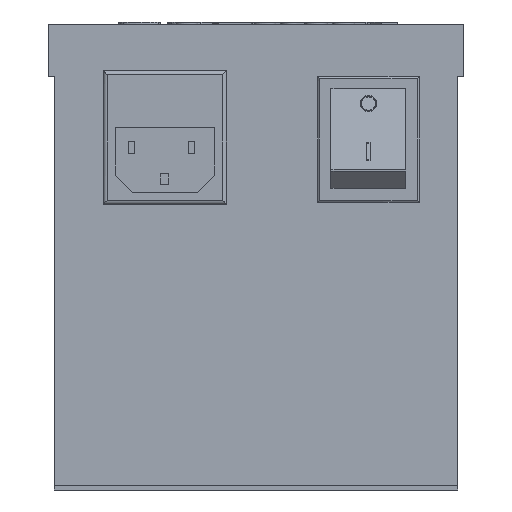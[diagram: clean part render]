
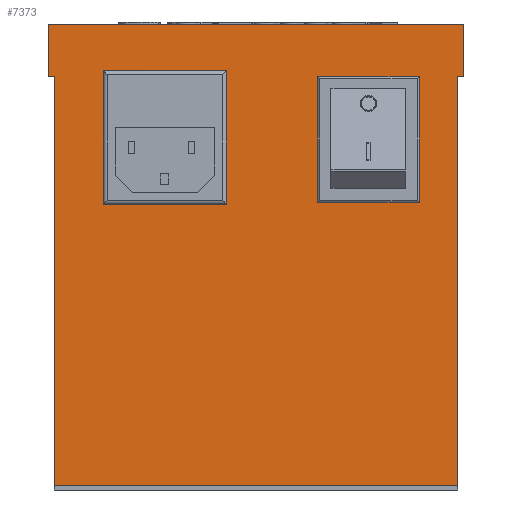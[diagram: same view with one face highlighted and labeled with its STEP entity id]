
A CAD part, front view. The second image highlights one B-rep face of the part: STEP entity #7373.
In plain terms, the highlighted planar face has unit normal (0, -1, 0).
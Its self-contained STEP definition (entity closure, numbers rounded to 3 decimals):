
#139 = DIRECTION ( 'NONE',  ( 0., 0., -1. ) ) ;
#192 = DIRECTION ( 'NONE',  ( 0., 0., -1. ) ) ;
#205 = EDGE_CURVE ( 'NONE', #8545, #2870, #1910, .T. ) ;
#268 = ORIENTED_EDGE ( 'NONE', *, *, #8837, .F. ) ;
#429 = ORIENTED_EDGE ( 'NONE', *, *, #9836, .T. ) ;
#453 = DIRECTION ( 'NONE',  ( 0., 0., -1. ) ) ;
#478 = DIRECTION ( 'NONE',  ( -1., 0., 0. ) ) ;
#507 = VERTEX_POINT ( 'NONE', #4184 ) ;
#665 = CARTESIAN_POINT ( 'NONE',  ( -76.9, -8.6, 103.5 ) ) ;
#739 = VERTEX_POINT ( 'NONE', #5477 ) ;
#763 = VERTEX_POINT ( 'NONE', #2629 ) ;
#824 = LINE ( 'NONE', #7375, #5283 ) ;
#923 = CARTESIAN_POINT ( 'NONE',  ( -90.4, -8.6, 103.5 ) ) ;
#953 = VERTEX_POINT ( 'NONE', #4834 ) ;
#961 = FACE_BOUND ( 'NONE', #4411, .T. ) ;
#1061 = EDGE_CURVE ( 'NONE', #2870, #1855, #3461, .T. ) ;
#1065 = LINE ( 'NONE', #6642, #11182 ) ;
#1068 = CARTESIAN_POINT ( 'NONE',  ( -88.9, -8.6, 1. ) ) ;
#1124 = LINE ( 'NONE', #8844, #11011 ) ;
#1128 = DIRECTION ( 'NONE',  ( 1., 0., 0. ) ) ;
#1245 = DIRECTION ( 'NONE',  ( 1., 0., 0. ) ) ;
#1257 = ORIENTED_EDGE ( 'NONE', *, *, #10707, .F. ) ;
#1317 = VECTOR ( 'NONE', #478, 1000. ) ;
#1591 = CARTESIAN_POINT ( 'NONE',  ( -88.9, -8.6, 102. ) ) ;
#1784 = LINE ( 'NONE', #4567, #7640 ) ;
#1855 = VERTEX_POINT ( 'NONE', #3028 ) ;
#1899 = ORIENTED_EDGE ( 'NONE', *, *, #8625, .F. ) ;
#1910 = LINE ( 'NONE', #923, #7935 ) ;
#2203 = EDGE_LOOP ( 'NONE', ( #10556, #9088, #1899, #8182 ) ) ;
#2449 = VECTOR ( 'NONE', #8655, 1000. ) ;
#2503 = CARTESIAN_POINT ( 'NONE',  ( -46.4, -8.6, 103.5 ) ) ;
#2558 = EDGE_CURVE ( 'NONE', #11311, #8545, #9948, .T. ) ;
#2629 = CARTESIAN_POINT ( 'NONE',  ( 12.1, -8.6, 102. ) ) ;
#2680 = LINE ( 'NONE', #4287, #11401 ) ;
#2709 = ORIENTED_EDGE ( 'NONE', *, *, #2558, .F. ) ;
#2870 = VERTEX_POINT ( 'NONE', #665 ) ;
#2972 = CARTESIAN_POINT ( 'NONE',  ( -23.9, -8.6, 71. ) ) ;
#3028 = CARTESIAN_POINT ( 'NONE',  ( -76.9, -8.6, 70.5 ) ) ;
#3041 = CARTESIAN_POINT ( 'NONE',  ( 12.1, -8.6, 1. ) ) ;
#3106 = LINE ( 'NONE', #3041, #1317 ) ;
#3236 = LINE ( 'NONE', #7013, #5664 ) ;
#3356 = EDGE_LOOP ( 'NONE', ( #4813, #5447, #6015, #1257, #268, #429, #3913, #10366 ) ) ;
#3457 = VECTOR ( 'NONE', #9832, 1000. ) ;
#3461 = LINE ( 'NONE', #6245, #5218 ) ;
#3517 = EDGE_CURVE ( 'NONE', #1855, #11311, #4831, .T. ) ;
#3561 = EDGE_CURVE ( 'NONE', #953, #9560, #10378, .T. ) ;
#3597 = CARTESIAN_POINT ( 'NONE',  ( -90.4, -8.6, 115. ) ) ;
#3781 = CARTESIAN_POINT ( 'NONE',  ( 12.1, -8.6, 102. ) ) ;
#3871 = FACE_BOUND ( 'NONE', #2203, .T. ) ;
#3913 = ORIENTED_EDGE ( 'NONE', *, *, #7744, .F. ) ;
#4152 = CARTESIAN_POINT ( 'NONE',  ( -90.4, -8.6, 115. ) ) ;
#4184 = CARTESIAN_POINT ( 'NONE',  ( -90.4, -8.6, 102. ) ) ;
#4287 = CARTESIAN_POINT ( 'NONE',  ( 12.1, -8.6, 115. ) ) ;
#4411 = EDGE_LOOP ( 'NONE', ( #2709, #10456, #6697, #7930 ) ) ;
#4567 = CARTESIAN_POINT ( 'NONE',  ( -90.4, -8.6, 102. ) ) ;
#4813 = ORIENTED_EDGE ( 'NONE', *, *, #8952, .F. ) ;
#4831 = LINE ( 'NONE', #10566, #2449 ) ;
#4834 = CARTESIAN_POINT ( 'NONE',  ( 10.6, -8.6, 102. ) ) ;
#4856 = DIRECTION ( 'NONE',  ( -1., 0., 0. ) ) ;
#4957 = CARTESIAN_POINT ( 'NONE',  ( 10.6, -8.6, 0. ) ) ;
#5199 = DIRECTION ( 'NONE',  ( 0., 0., -1. ) ) ;
#5218 = VECTOR ( 'NONE', #5199, 1000. ) ;
#5283 = VECTOR ( 'NONE', #9223, 1000. ) ;
#5335 = DIRECTION ( 'NONE',  ( -1., 0., 0. ) ) ;
#5338 = DIRECTION ( 'NONE',  ( 0., 0., -1. ) ) ;
#5447 = ORIENTED_EDGE ( 'NONE', *, *, #10548, .F. ) ;
#5477 = CARTESIAN_POINT ( 'NONE',  ( -23.9, -8.6, 102. ) ) ;
#5601 = CARTESIAN_POINT ( 'NONE',  ( 12.1, -8.6, 115. ) ) ;
#5636 = LINE ( 'NONE', #3781, #10980 ) ;
#5664 = VECTOR ( 'NONE', #453, 1000. ) ;
#5681 = VERTEX_POINT ( 'NONE', #5601 ) ;
#5854 = VECTOR ( 'NONE', #1245, 1000. ) ;
#5971 = CARTESIAN_POINT ( 'NONE',  ( -46.4, -8.6, 70.5 ) ) ;
#6012 = VECTOR ( 'NONE', #192, 1000. ) ;
#6015 = ORIENTED_EDGE ( 'NONE', *, *, #7236, .F. ) ;
#6245 = CARTESIAN_POINT ( 'NONE',  ( -76.9, -8.6, 115. ) ) ;
#6642 = CARTESIAN_POINT ( 'NONE',  ( -90.4, -8.6, 71. ) ) ;
#6697 = ORIENTED_EDGE ( 'NONE', *, *, #1061, .F. ) ;
#7013 = CARTESIAN_POINT ( 'NONE',  ( -23.9, -8.6, 115. ) ) ;
#7236 = EDGE_CURVE ( 'NONE', #9806, #5681, #7968, .T. ) ;
#7243 = CARTESIAN_POINT ( 'NONE',  ( -90.4, -8.6, 102. ) ) ;
#7286 = CARTESIAN_POINT ( 'NONE',  ( 1.1, -8.6, 71. ) ) ;
#7373 = ADVANCED_FACE ( 'NONE', ( #10468, #3871, #961 ), #7567, .F. ) ;
#7375 = CARTESIAN_POINT ( 'NONE',  ( 1.1, -8.6, 115. ) ) ;
#7560 = CARTESIAN_POINT ( 'NONE',  ( 10.6, -8.6, 1. ) ) ;
#7565 = EDGE_CURVE ( 'NONE', #739, #12072, #3236, .T. ) ;
#7567 = PLANE ( 'NONE',  #7630 ) ;
#7630 = AXIS2_PLACEMENT_3D ( 'NONE', #8549, #10277, #4856 ) ;
#7640 = VECTOR ( 'NONE', #8684, 1000. ) ;
#7744 = EDGE_CURVE ( 'NONE', #9560, #9621, #3106, .T. ) ;
#7836 = VERTEX_POINT ( 'NONE', #1591 ) ;
#7844 = VECTOR ( 'NONE', #5338, 1000. ) ;
#7930 = ORIENTED_EDGE ( 'NONE', *, *, #205, .F. ) ;
#7935 = VECTOR ( 'NONE', #10299, 1000. ) ;
#7968 = LINE ( 'NONE', #4152, #5854 ) ;
#8097 = LINE ( 'NONE', #7243, #9608 ) ;
#8100 = CARTESIAN_POINT ( 'NONE',  ( -88.9, -8.6, 0. ) ) ;
#8182 = ORIENTED_EDGE ( 'NONE', *, *, #7565, .F. ) ;
#8512 = EDGE_CURVE ( 'NONE', #9070, #10493, #824, .T. ) ;
#8545 = VERTEX_POINT ( 'NONE', #2503 ) ;
#8549 = CARTESIAN_POINT ( 'NONE',  ( -90.4, -8.6, 115. ) ) ;
#8625 = EDGE_CURVE ( 'NONE', #12072, #9070, #1065, .T. ) ;
#8655 = DIRECTION ( 'NONE',  ( 1., 0., 0. ) ) ;
#8684 = DIRECTION ( 'NONE',  ( -1., 0., 0. ) ) ;
#8837 = EDGE_CURVE ( 'NONE', #7836, #507, #8097, .T. ) ;
#8844 = CARTESIAN_POINT ( 'NONE',  ( -90.4, -8.6, 115. ) ) ;
#8952 = EDGE_CURVE ( 'NONE', #763, #953, #5636, .T. ) ;
#9070 = VERTEX_POINT ( 'NONE', #7286 ) ;
#9088 = ORIENTED_EDGE ( 'NONE', *, *, #8512, .F. ) ;
#9219 = CARTESIAN_POINT ( 'NONE',  ( 1.1, -8.6, 102. ) ) ;
#9223 = DIRECTION ( 'NONE',  ( 0., 0., 1. ) ) ;
#9301 = EDGE_CURVE ( 'NONE', #10493, #739, #1784, .T. ) ;
#9560 = VERTEX_POINT ( 'NONE', #7560 ) ;
#9608 = VECTOR ( 'NONE', #5335, 1000. ) ;
#9621 = VERTEX_POINT ( 'NONE', #1068 ) ;
#9806 = VERTEX_POINT ( 'NONE', #3597 ) ;
#9832 = DIRECTION ( 'NONE',  ( 0., 0., 1. ) ) ;
#9836 = EDGE_CURVE ( 'NONE', #7836, #9621, #10074, .T. ) ;
#9948 = LINE ( 'NONE', #10646, #3457 ) ;
#10074 = LINE ( 'NONE', #8100, #7844 ) ;
#10277 = DIRECTION ( 'NONE',  ( 0., 1., 0. ) ) ;
#10299 = DIRECTION ( 'NONE',  ( -1., 0., 0. ) ) ;
#10366 = ORIENTED_EDGE ( 'NONE', *, *, #3561, .F. ) ;
#10378 = LINE ( 'NONE', #4957, #6012 ) ;
#10456 = ORIENTED_EDGE ( 'NONE', *, *, #3517, .F. ) ;
#10468 = FACE_OUTER_BOUND ( 'NONE', #3356, .T. ) ;
#10493 = VERTEX_POINT ( 'NONE', #9219 ) ;
#10499 = DIRECTION ( 'NONE',  ( -1., 0., 0. ) ) ;
#10548 = EDGE_CURVE ( 'NONE', #5681, #763, #2680, .T. ) ;
#10556 = ORIENTED_EDGE ( 'NONE', *, *, #9301, .F. ) ;
#10566 = CARTESIAN_POINT ( 'NONE',  ( -90.4, -8.6, 70.5 ) ) ;
#10646 = CARTESIAN_POINT ( 'NONE',  ( -46.4, -8.6, 115. ) ) ;
#10695 = DIRECTION ( 'NONE',  ( 0., 0., 1. ) ) ;
#10707 = EDGE_CURVE ( 'NONE', #507, #9806, #1124, .T. ) ;
#10980 = VECTOR ( 'NONE', #10499, 1000. ) ;
#11011 = VECTOR ( 'NONE', #10695, 1000. ) ;
#11182 = VECTOR ( 'NONE', #1128, 1000. ) ;
#11311 = VERTEX_POINT ( 'NONE', #5971 ) ;
#11401 = VECTOR ( 'NONE', #139, 1000. ) ;
#12072 = VERTEX_POINT ( 'NONE', #2972 ) ;
